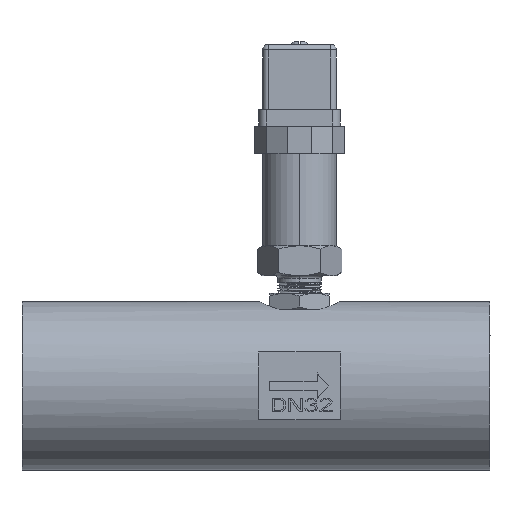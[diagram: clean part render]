
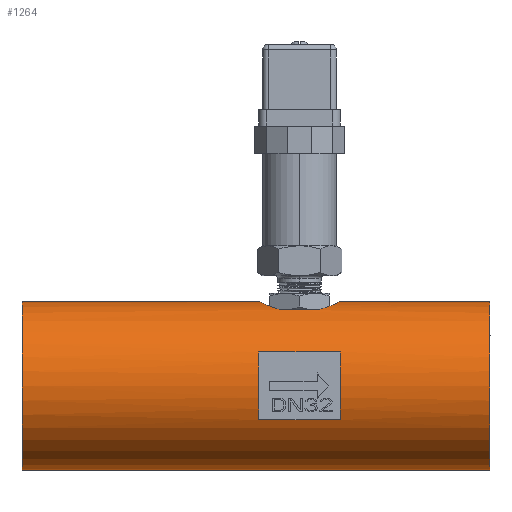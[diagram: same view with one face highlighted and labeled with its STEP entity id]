
A CAD part, left-side view. The second image highlights one B-rep face of the part: STEP entity #1264.
In plain terms, the highlighted cylindrical face has radius 31 mm (diameter 62 mm), a full revolution.
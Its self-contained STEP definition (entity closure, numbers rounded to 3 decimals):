
#212=B_SPLINE_CURVE_WITH_KNOTS('',3,(#17144,#17145,#17146,#17147,#17148,
#17149,#17150,#17151,#17152,#17153),.UNSPECIFIED.,.F.,.F.,(4,2,2,2,4),(0.,
0.25,0.5,0.75,1.),.UNSPECIFIED.);
#260=B_SPLINE_CURVE_WITH_KNOTS('',3,(#19569,#19570,#19571,#19572,#19573,
#19574,#19575,#19576,#19577,#19578),.UNSPECIFIED.,.F.,.F.,(4,2,2,2,4),(0.,
0.25,0.5,0.75,1.),.UNSPECIFIED.);
#404=CYLINDRICAL_SURFACE('',#10332,31.);
#1264=ADVANCED_FACE('',(#2050,#2051,#2052,#2053,#2054),#404,.T.);
#1978=CIRCLE('',#10325,31.);
#1979=CIRCLE('',#10327,31.);
#1980=CIRCLE('',#10328,31.);
#1981=CIRCLE('',#10329,31.);
#1982=CIRCLE('',#10330,31.);
#1983=CIRCLE('',#10331,31.);
#2050=FACE_BOUND('',#2470,.T.);
#2051=FACE_BOUND('',#2471,.T.);
#2052=FACE_BOUND('',#2472,.T.);
#2053=FACE_BOUND('',#2473,.T.);
#2054=FACE_BOUND('',#2474,.T.);
#2470=EDGE_LOOP('',(#4574));
#2471=EDGE_LOOP('',(#4575));
#2472=EDGE_LOOP('',(#4576,#4577,#4578,#4579));
#2473=EDGE_LOOP('',(#4580,#4581,#4582,#4583));
#2474=EDGE_LOOP('',(#4584,#4585,#4586,#4587));
#4574=ORIENTED_EDGE('',*,*,#7336,.T.);
#4575=ORIENTED_EDGE('',*,*,#7337,.T.);
#4576=ORIENTED_EDGE('',*,*,#7338,.F.);
#4577=ORIENTED_EDGE('',*,*,#7339,.T.);
#4578=ORIENTED_EDGE('',*,*,#7340,.F.);
#4579=ORIENTED_EDGE('',*,*,#7341,.T.);
#4580=ORIENTED_EDGE('',*,*,#7342,.T.);
#4581=ORIENTED_EDGE('',*,*,#7343,.F.);
#4582=ORIENTED_EDGE('',*,*,#7344,.T.);
#4583=ORIENTED_EDGE('',*,*,#7345,.F.);
#4584=ORIENTED_EDGE('',*,*,#7277,.F.);
#4585=ORIENTED_EDGE('',*,*,#7346,.F.);
#4586=ORIENTED_EDGE('',*,*,#7347,.F.);
#4587=ORIENTED_EDGE('',*,*,#7348,.F.);
#6039=VERTEX_POINT('',#17154);
#6040=VERTEX_POINT('',#17155);
#6081=VERTEX_POINT('',#19547);
#6082=VERTEX_POINT('',#19550);
#6083=VERTEX_POINT('',#19552);
#6084=VERTEX_POINT('',#19553);
#6085=VERTEX_POINT('',#19555);
#6086=VERTEX_POINT('',#19557);
#6087=VERTEX_POINT('',#19560);
#6088=VERTEX_POINT('',#19561);
#6089=VERTEX_POINT('',#19563);
#6090=VERTEX_POINT('',#19565);
#6091=VERTEX_POINT('',#19568);
#6092=VERTEX_POINT('',#19579);
#7277=EDGE_CURVE('',#6039,#6040,#212,.T.);
#7336=EDGE_CURVE('',#6081,#6081,#1978,.T.);
#7337=EDGE_CURVE('',#6082,#6082,#1979,.T.);
#7338=EDGE_CURVE('',#6083,#6084,#8382,.T.);
#7339=EDGE_CURVE('',#6083,#6085,#1980,.T.);
#7340=EDGE_CURVE('',#6086,#6085,#8383,.T.);
#7341=EDGE_CURVE('',#6086,#6084,#1981,.T.);
#7342=EDGE_CURVE('',#6087,#6088,#1982,.T.);
#7343=EDGE_CURVE('',#6089,#6088,#8384,.T.);
#7344=EDGE_CURVE('',#6089,#6090,#1983,.T.);
#7345=EDGE_CURVE('',#6087,#6090,#8385,.T.);
#7346=EDGE_CURVE('',#6091,#6039,#8386,.T.);
#7347=EDGE_CURVE('',#6092,#6091,#260,.T.);
#7348=EDGE_CURVE('',#6040,#6092,#8387,.T.);
#8382=LINE('',#19551,#9413);
#8383=LINE('',#19556,#9414);
#8384=LINE('',#19562,#9415);
#8385=LINE('',#19566,#9416);
#8386=LINE('',#19567,#9417);
#8387=LINE('',#19580,#9418);
#9413=VECTOR('',#12125,1.);
#9414=VECTOR('',#12128,1.);
#9415=VECTOR('',#12133,1.);
#9416=VECTOR('',#12136,1.);
#9417=VECTOR('',#12137,1.);
#9418=VECTOR('',#12138,1.);
#10325=AXIS2_PLACEMENT_3D('',#19546,#12119,#12120);
#10327=AXIS2_PLACEMENT_3D('',#19549,#12123,#12124);
#10328=AXIS2_PLACEMENT_3D('',#19554,#12126,#12127);
#10329=AXIS2_PLACEMENT_3D('',#19558,#12129,#12130);
#10330=AXIS2_PLACEMENT_3D('',#19559,#12131,#12132);
#10331=AXIS2_PLACEMENT_3D('',#19564,#12134,#12135);
#10332=AXIS2_PLACEMENT_3D('',#19581,#12139,#12140);
#12119=DIRECTION('',(0.,1.,0.));
#12120=DIRECTION('',(-1.,0.,0.));
#12123=DIRECTION('',(0.,-1.,0.));
#12124=DIRECTION('',(-1.,0.,0.));
#12125=DIRECTION('',(0.,-1.,0.));
#12126=DIRECTION('',(0.,1.,0.));
#12127=DIRECTION('',(1.,0.,0.));
#12128=DIRECTION('',(0.,1.,0.));
#12129=DIRECTION('',(0.,-1.,0.));
#12130=DIRECTION('',(0.915,0.,-0.403));
#12131=DIRECTION('',(0.,1.,0.));
#12132=DIRECTION('',(-0.915,0.,-0.403));
#12133=DIRECTION('',(0.,1.,0.));
#12134=DIRECTION('',(0.,-1.,0.));
#12135=DIRECTION('',(-1.,0.,0.));
#12136=DIRECTION('',(0.,-1.,0.));
#12137=DIRECTION('',(0.,-1.,0.));
#12138=DIRECTION('',(0.,1.,0.));
#12139=DIRECTION('',(0.,-1.,0.));
#12140=DIRECTION('',(1.,0.,0.));
#17144=CARTESIAN_POINT('',(12.196,29.472,-94.));
#17145=CARTESIAN_POINT('',(13.461,27.042,-93.399));
#17146=CARTESIAN_POINT('',(15.344,25.037,-92.615));
#17147=CARTESIAN_POINT('',(19.937,22.211,-91.411));
#17148=CARTESIAN_POINT('',(22.695,21.404,-91.002));
#17149=CARTESIAN_POINT('',(28.264,21.396,-90.998));
#17150=CARTESIAN_POINT('',(31.001,22.18,-91.397));
#17151=CARTESIAN_POINT('',(35.663,25.034,-92.614));
#17152=CARTESIAN_POINT('',(37.539,27.042,-93.399));
#17153=CARTESIAN_POINT('',(38.804,29.472,-94.));
#17154=CARTESIAN_POINT('',(12.196,29.472,-94.));
#17155=CARTESIAN_POINT('',(38.804,29.472,-94.));
#19546=CARTESIAN_POINT('',(25.5,-33.6,-122.));
#19547=CARTESIAN_POINT('',(-5.5,-33.6,-122.));
#19549=CARTESIAN_POINT('',(25.5,138.4,-122.));
#19550=CARTESIAN_POINT('',(-5.5,138.4,-122.));
#19551=CARTESIAN_POINT('',(53.868,51.4,-109.5));
#19552=CARTESIAN_POINT('',(53.868,51.4,-109.5));
#19553=CARTESIAN_POINT('',(53.868,21.4,-109.5));
#19554=CARTESIAN_POINT('',(25.5,51.4,-122.));
#19555=CARTESIAN_POINT('',(53.868,51.4,-134.5));
#19556=CARTESIAN_POINT('',(53.868,21.4,-134.5));
#19557=CARTESIAN_POINT('',(53.868,21.4,-134.5));
#19558=CARTESIAN_POINT('',(25.5,21.4,-122.));
#19559=CARTESIAN_POINT('',(25.5,51.4,-122.));
#19560=CARTESIAN_POINT('',(-2.868,51.4,-134.5));
#19561=CARTESIAN_POINT('',(-2.868,51.4,-109.5));
#19562=CARTESIAN_POINT('',(-2.868,21.4,-109.5));
#19563=CARTESIAN_POINT('',(-2.868,21.4,-109.5));
#19564=CARTESIAN_POINT('',(25.5,21.4,-122.));
#19565=CARTESIAN_POINT('',(-2.868,21.4,-134.5));
#19566=CARTESIAN_POINT('',(-2.868,51.4,-134.5));
#19567=CARTESIAN_POINT('',(12.196,43.328,-94.));
#19568=CARTESIAN_POINT('',(12.196,43.328,-94.));
#19569=CARTESIAN_POINT('',(38.804,43.328,-94.));
#19570=CARTESIAN_POINT('',(37.539,45.758,-93.399));
#19571=CARTESIAN_POINT('',(35.656,47.763,-92.615));
#19572=CARTESIAN_POINT('',(31.063,50.589,-91.411));
#19573=CARTESIAN_POINT('',(28.305,51.396,-91.002));
#19574=CARTESIAN_POINT('',(22.736,51.404,-90.998));
#19575=CARTESIAN_POINT('',(19.999,50.62,-91.397));
#19576=CARTESIAN_POINT('',(15.337,47.766,-92.614));
#19577=CARTESIAN_POINT('',(13.461,45.758,-93.399));
#19578=CARTESIAN_POINT('',(12.196,43.328,-94.));
#19579=CARTESIAN_POINT('',(38.804,43.328,-94.));
#19580=CARTESIAN_POINT('',(38.804,29.472,-94.));
#19581=CARTESIAN_POINT('',(25.5,147.,-122.));
